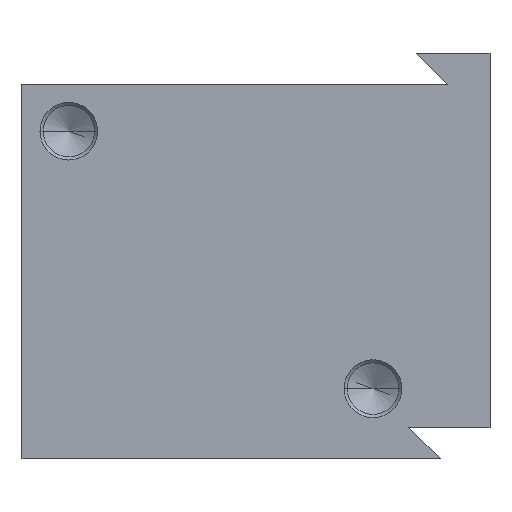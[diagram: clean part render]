
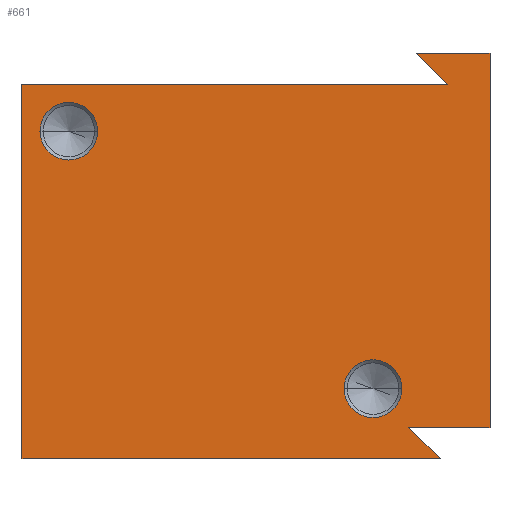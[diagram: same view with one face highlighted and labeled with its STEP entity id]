
A CAD part, front view. The second image highlights one B-rep face of the part: STEP entity #661.
In plain terms, the highlighted planar face has unit normal (0, -1, 0).
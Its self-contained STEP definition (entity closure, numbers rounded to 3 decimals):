
#433 = VERTEX_POINT ( 'NONE', #1447 ) ;
#435 = EDGE_CURVE ( 'NONE', #436, #433, #1508, .T. ) ;
#436 = VERTEX_POINT ( 'NONE', #1503 ) ;
#447 = VERTEX_POINT ( 'NONE', #1481 ) ;
#449 = EDGE_CURVE ( 'NONE', #450, #447, #1480, .T. ) ;
#450 = VERTEX_POINT ( 'NONE', #1538 ) ;
#624 = EDGE_CURVE ( 'NONE', #641, #625, #1846, .T. ) ;
#625 = VERTEX_POINT ( 'NONE', #1842 ) ;
#638 = VERTEX_POINT ( 'NONE', #1878 ) ;
#640 = EDGE_CURVE ( 'NONE', #638, #641, #1877, .T. ) ;
#641 = VERTEX_POINT ( 'NONE', #1873 ) ;
#661 = ADVANCED_FACE ( 'NONE', ( #1899, #1898, #1897 ), #1896, .T. ) ;
#662 = EDGE_LOOP ( 'NONE', ( #663, #664 ) ) ;
#663 = ORIENTED_EDGE ( 'NONE', *, *, #449, .T. ) ;
#664 = ORIENTED_EDGE ( 'NONE', *, *, #665, .T. ) ;
#665 = EDGE_CURVE ( 'NONE', #447, #450, #1891, .T. ) ;
#666 = EDGE_LOOP ( 'NONE', ( #667, #668 ) ) ;
#667 = ORIENTED_EDGE ( 'NONE', *, *, #435, .T. ) ;
#668 = ORIENTED_EDGE ( 'NONE', *, *, #669, .T. ) ;
#669 = EDGE_CURVE ( 'NONE', #433, #436, #1886, .T. ) ;
#670 = EDGE_LOOP ( 'NONE', ( #684, #687, #688, #689, #692, #694, #695, #711 ) ) ;
#684 = ORIENTED_EDGE ( 'NONE', *, *, #685, .T. ) ;
#685 = EDGE_CURVE ( 'NONE', #686, #734, #1921, .T. ) ;
#686 = VERTEX_POINT ( 'NONE', #1917 ) ;
#687 = ORIENTED_EDGE ( 'NONE', *, *, #732, .F. ) ;
#688 = ORIENTED_EDGE ( 'NONE', *, *, #739, .F. ) ;
#689 = ORIENTED_EDGE ( 'NONE', *, *, #690, .T. ) ;
#690 = EDGE_CURVE ( 'NONE', #737, #691, #1980, .T. ) ;
#691 = VERTEX_POINT ( 'NONE', #1976 ) ;
#692 = ORIENTED_EDGE ( 'NONE', *, *, #693, .T. ) ;
#693 = EDGE_CURVE ( 'NONE', #691, #625, #1975, .T. ) ;
#694 = ORIENTED_EDGE ( 'NONE', *, *, #624, .F. ) ;
#695 = ORIENTED_EDGE ( 'NONE', *, *, #640, .F. ) ;
#711 = ORIENTED_EDGE ( 'NONE', *, *, #712, .T. ) ;
#712 = EDGE_CURVE ( 'NONE', #638, #686, #1950, .T. ) ;
#732 = EDGE_CURVE ( 'NONE', #733, #734, #2034, .T. ) ;
#733 = VERTEX_POINT ( 'NONE', #2030 ) ;
#734 = VERTEX_POINT ( 'NONE', #2029 ) ;
#737 = VERTEX_POINT ( 'NONE', #2024 ) ;
#739 = EDGE_CURVE ( 'NONE', #737, #733, #2023, .T. ) ;
#1447 = CARTESIAN_POINT ( 'NONE',  ( 24.35, 0., -21.5 ) ) ;
#1476 = DIRECTION ( 'NONE',  ( -1., 0., 0. ) ) ;
#1477 = DIRECTION ( 'NONE',  ( 0., 1., 0. ) ) ;
#1478 = CARTESIAN_POINT ( 'NONE',  ( 3., 0., -5. ) ) ;
#1479 = AXIS2_PLACEMENT_3D ( 'NONE', #1478, #1477, #1476 ) ;
#1480 = CIRCLE ( 'NONE', #1479, 1.85 ) ;
#1481 = CARTESIAN_POINT ( 'NONE',  ( 4.85, 0., -5. ) ) ;
#1503 = CARTESIAN_POINT ( 'NONE',  ( 20.65, 0., -21.5 ) ) ;
#1504 = DIRECTION ( 'NONE',  ( -1., 0., 0. ) ) ;
#1505 = DIRECTION ( 'NONE',  ( 0., 1., 0. ) ) ;
#1506 = CARTESIAN_POINT ( 'NONE',  ( 22.5, 0., -21.5 ) ) ;
#1507 = AXIS2_PLACEMENT_3D ( 'NONE', #1506, #1505, #1504 ) ;
#1508 = CIRCLE ( 'NONE', #1507, 1.85 ) ;
#1538 = CARTESIAN_POINT ( 'NONE',  ( 1.15, 0., -5. ) ) ;
#1842 = CARTESIAN_POINT ( 'NONE',  ( 30., 0., -24. ) ) ;
#1843 = DIRECTION ( 'NONE',  ( 0., 0., -1. ) ) ;
#1844 = VECTOR ( 'NONE', #1843, 1000. ) ;
#1845 = CARTESIAN_POINT ( 'NONE',  ( 30., 0., 0. ) ) ;
#1846 = LINE ( 'NONE', #1845, #1844 ) ;
#1873 = CARTESIAN_POINT ( 'NONE',  ( 30., 0., 0. ) ) ;
#1874 = DIRECTION ( 'NONE',  ( 1., 0., 0. ) ) ;
#1875 = VECTOR ( 'NONE', #1874, 1000. ) ;
#1876 = CARTESIAN_POINT ( 'NONE',  ( 0., 0., 0. ) ) ;
#1877 = LINE ( 'NONE', #1876, #1875 ) ;
#1878 = CARTESIAN_POINT ( 'NONE',  ( 25.3, 0., 0. ) ) ;
#1883 = DIRECTION ( 'NONE',  ( 0., 1., 0. ) ) ;
#1884 = CARTESIAN_POINT ( 'NONE',  ( 22.5, 0., -21.5 ) ) ;
#1885 = AXIS2_PLACEMENT_3D ( 'NONE', #1884, #1883, #1946 ) ;
#1886 = CIRCLE ( 'NONE', #1885, 1.85 ) ;
#1887 = DIRECTION ( 'NONE',  ( -1., 0., 0. ) ) ;
#1888 = DIRECTION ( 'NONE',  ( 0., 1., 0. ) ) ;
#1889 = CARTESIAN_POINT ( 'NONE',  ( 3., 0., -5. ) ) ;
#1890 = AXIS2_PLACEMENT_3D ( 'NONE', #1889, #1888, #1887 ) ;
#1891 = CIRCLE ( 'NONE', #1890, 1.85 ) ;
#1892 = DIRECTION ( 'NONE',  ( -1., 0., 0. ) ) ;
#1893 = DIRECTION ( 'NONE',  ( 0., -1., 0. ) ) ;
#1894 = CARTESIAN_POINT ( 'NONE',  ( 0., 0., -26. ) ) ;
#1895 = AXIS2_PLACEMENT_3D ( 'NONE', #1894, #1893, #1892 ) ;
#1896 = PLANE ( 'NONE',  #1895 ) ;
#1897 = FACE_OUTER_BOUND ( 'NONE', #670, .T. ) ;
#1898 = FACE_BOUND ( 'NONE', #666, .T. ) ;
#1899 = FACE_BOUND ( 'NONE', #662, .T. ) ;
#1917 = CARTESIAN_POINT ( 'NONE',  ( 27.3, 0., -2. ) ) ;
#1918 = DIRECTION ( 'NONE',  ( -1., 0., 0. ) ) ;
#1919 = VECTOR ( 'NONE', #1918, 1000. ) ;
#1920 = CARTESIAN_POINT ( 'NONE',  ( 0., 0., -2. ) ) ;
#1921 = LINE ( 'NONE', #1920, #1919 ) ;
#1946 = DIRECTION ( 'NONE',  ( -1., 0., 0. ) ) ;
#1947 = DIRECTION ( 'NONE',  ( 0.707, 0., -0.707 ) ) ;
#1948 = VECTOR ( 'NONE', #1947, 1000. ) ;
#1949 = CARTESIAN_POINT ( 'NONE',  ( 27.3, 0., -2. ) ) ;
#1950 = LINE ( 'NONE', #1949, #1948 ) ;
#1972 = DIRECTION ( 'NONE',  ( 1., 0., 0. ) ) ;
#1973 = VECTOR ( 'NONE', #1972, 1000. ) ;
#1974 = CARTESIAN_POINT ( 'NONE',  ( 24.8, 0., -24. ) ) ;
#1975 = LINE ( 'NONE', #1974, #1973 ) ;
#1976 = CARTESIAN_POINT ( 'NONE',  ( 24.8, 0., -24. ) ) ;
#1977 = DIRECTION ( 'NONE',  ( -0.707, 0., 0.707 ) ) ;
#1978 = VECTOR ( 'NONE', #1977, 1000. ) ;
#1979 = CARTESIAN_POINT ( 'NONE',  ( 26.8, 0., -26. ) ) ;
#1980 = LINE ( 'NONE', #1979, #1978 ) ;
#2020 = DIRECTION ( 'NONE',  ( -1., 0., 0. ) ) ;
#2021 = VECTOR ( 'NONE', #2020, 1000. ) ;
#2022 = CARTESIAN_POINT ( 'NONE',  ( 0., 0., -26. ) ) ;
#2023 = LINE ( 'NONE', #2022, #2021 ) ;
#2024 = CARTESIAN_POINT ( 'NONE',  ( 26.8, 0., -26. ) ) ;
#2029 = CARTESIAN_POINT ( 'NONE',  ( 0., 0., -2. ) ) ;
#2030 = CARTESIAN_POINT ( 'NONE',  ( 0., 0., -26. ) ) ;
#2031 = DIRECTION ( 'NONE',  ( 0., 0., 1. ) ) ;
#2032 = VECTOR ( 'NONE', #2031, 1000. ) ;
#2033 = CARTESIAN_POINT ( 'NONE',  ( 0., 0., 0. ) ) ;
#2034 = LINE ( 'NONE', #2033, #2032 ) ;
